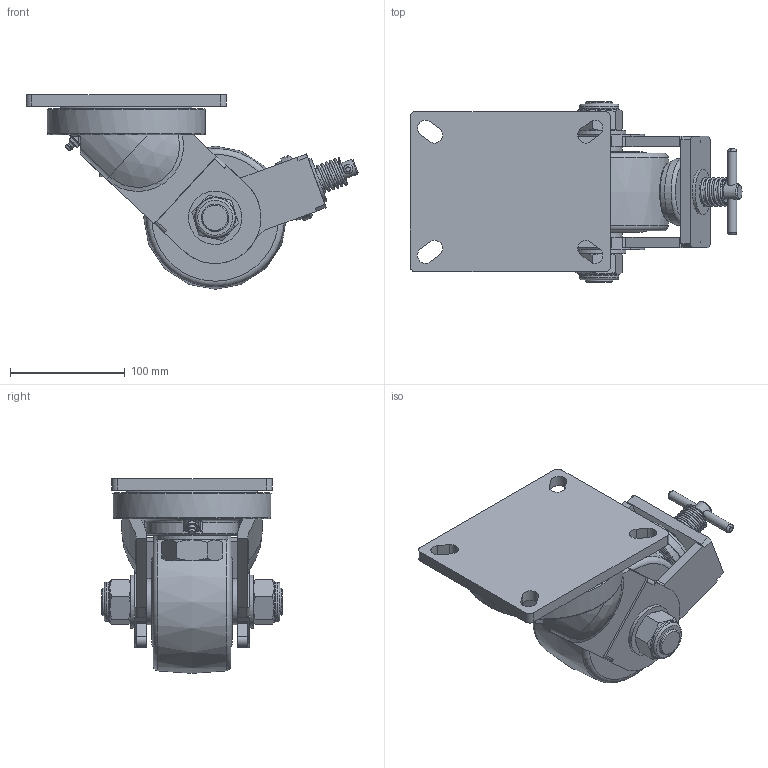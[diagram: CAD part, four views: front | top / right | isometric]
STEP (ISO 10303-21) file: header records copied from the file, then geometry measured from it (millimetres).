
FILE_DESCRIPTION((''),'2;1');
FILE_NAME('C:\Documents and Settings\Administrator\바탕 화면\뜸부기\신제품 진행_GL_GLH_GXT\GXT-125BSF MCD\GXT-125-BSF-MCD.stp','2011-06-23T09:18:24',('Administrator'),(''),'Autodesk Inventor 2009','Autodesk Inventor 2009','');
FILE_SCHEMA(('AUTOMOTIVE_DESIGN { 1 0 10303 214 1 1 1 1 }'));
Length unit declared in the file: millimetre
Products named in the file (1): GXT-125-BSF-MCD
Bounding box: 289.97 x 158 x 170 mm (x, y, z)
Volume: 1822835.6 mm3; surface area: 293551.4 mm2
Topology: 16 solids, 17 shells, 507 faces, 1202 edges, 763 vertices
Faces by surface type: plane 239, cylinder 142, bspline 47, cone 44, torus 31, sphere 4
Full cylindrical faces by diameter (mm): 1 x4, 5 x1, 6 x1, 8 x2, 8.2 x1, 11.7 x1, 12.2 x2, 13 x1, 14 x1, 16.2 x1, 18.2 x1, 20 x1, 21 x2, 22 x2, 23.5 x1, 24 x6, 24.3 x2, 24.5 x2, 26 x2, 27 x1, 30 x6, 30.5 x1, 32 x1, 34.4 x2, 35 x3, 40 x3, 40.667 x4, 42 x1, 46.7 x2, 48.5 x1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
Entity records: 18455 total; most frequent: CARTESIAN_POINT 7604, DIRECTION 2263, ORIENTED_EDGE 1990, EDGE_CURVE 995, AXIS2_PLACEMENT_3D 911, EDGE_LOOP 758, VERTEX_POINT 720, FACE_OUTER_BOUND 507
